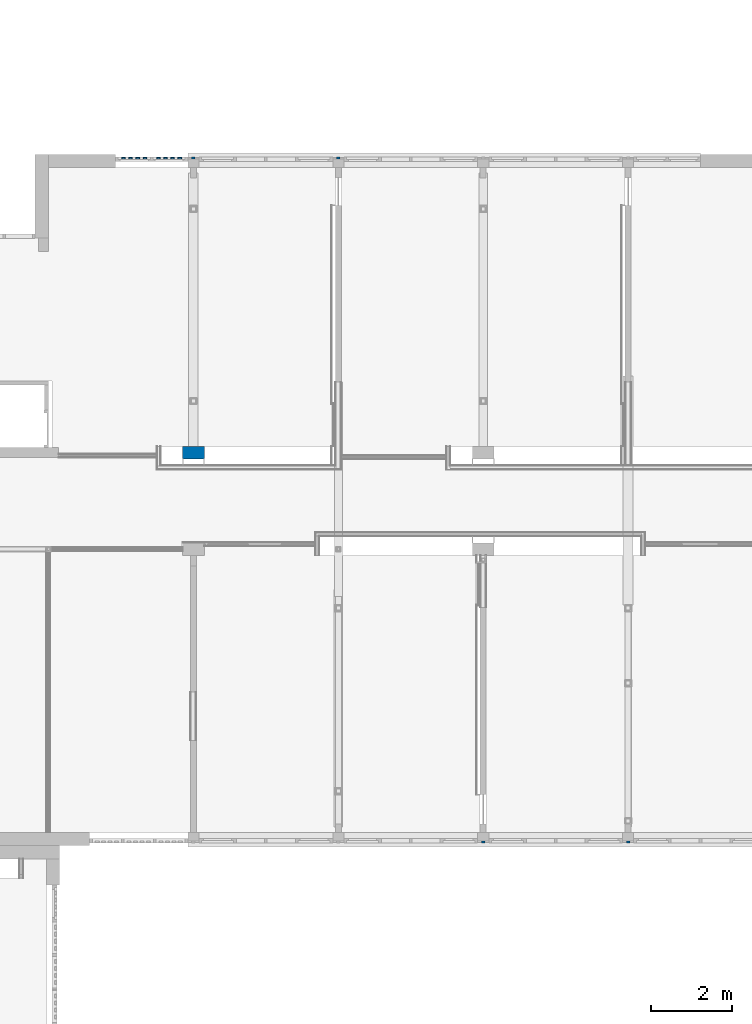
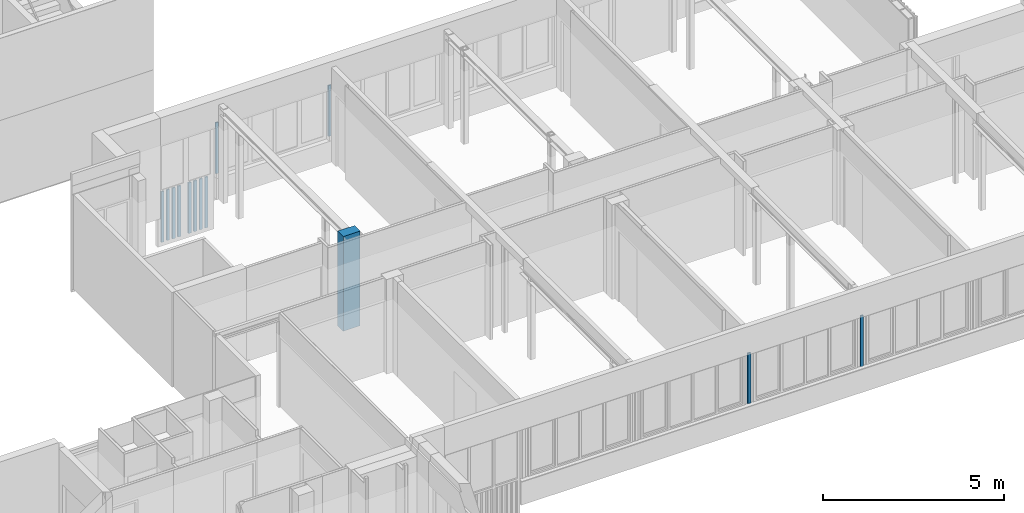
# One storey, part 15 of 99: 13 columns.
"""IFC2X3 building model written with IfcOpenShell, lengths in millimetres."""

from ifc_helpers import new_model, entity, si_unit, converted_unit, derived_unit, money_unit, direction, frame, origin_with_axes, place, context, subcontext, project, spatial, faceted_brep, material, type_object, element, save


model = new_model("IFC2X3")

# Units and contexts
model_context = context("Model", 3, precision=0.01, world=origin_with_axes(), true_north=direction((0.0, 1.0)))
body_context = subcontext(model_context, "Body", "Model", "MODEL_VIEW")
ifc_project = project(units=[si_unit("LENGTHUNIT", "METRE", prefix="MILLI"), si_unit("AREAUNIT", "SQUARE_METRE"), si_unit("VOLUMEUNIT", "CUBIC_METRE"), converted_unit("PLANEANGLEUNIT", "DEGREE", entity("IfcPlaneAngleMeasure", 0.0174532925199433), si_unit("PLANEANGLEUNIT", "RADIAN"), dimensions=[0, 0, 0, 0, 0, 0, 0]), money_unit("EUR"), converted_unit("TIMEUNIT", "Year", entity("IfcTimeMeasure", 31557600.0), si_unit("TIMEUNIT", "SECOND"), dimensions=[0, 0, 1, 0, 0, 0, 0]), si_unit("MASSUNIT", "GRAM", prefix="KILO"), si_unit("THERMODYNAMICTEMPERATUREUNIT", "DEGREE_CELSIUS"), si_unit("LUMINOUSINTENSITYUNIT", "LUMEN"), si_unit("ENERGYUNIT", "JOULE", prefix="MEGA"), derived_unit("THERMALCONDUCTANCEUNIT", [(si_unit("POWERUNIT", "WATT"), 1), (si_unit("LENGTHUNIT", "METRE"), -1), (si_unit("THERMODYNAMICTEMPERATUREUNIT", "KELVIN"), -1)]), derived_unit("SPECIFICHEATCAPACITYUNIT", [(si_unit("ENERGYUNIT", "JOULE"), 1), (si_unit("MASSUNIT", "GRAM", prefix="KILO"), -1), (si_unit("THERMODYNAMICTEMPERATUREUNIT", "KELVIN"), -1)]), derived_unit("MASSDENSITYUNIT", [(si_unit("MASSUNIT", "GRAM", prefix="KILO"), 1), (si_unit("VOLUMEUNIT", "CUBIC_METRE"), -1)])], contexts=[model_context])

# Site, building, storey
site_placement = place(None, origin_with_axes())
site = spatial("IfcSite", under=ifc_project, at=site_placement, Name="Site", CompositionType="ELEMENT")
building_placement = place(site_placement, origin_with_axes())
building = spatial("IfcBuilding", under=site, at=building_placement, Name="Naam gebouw", CompositionType="ELEMENT")
storey_placement = place(building_placement, frame((0.0, 0.0, 7650.0), z_axis=(0.0, 0.0, 1.0), x_axis=(1.0, 0.0, 0.0)))
storey = spatial("IfcBuildingStorey", under=building, at=storey_placement, Name="2e verdieping N", CompositionType="ELEMENT", Elevation=7650.0)

# Columns
ifc_material_1 = material(Name="Metaal - Staal C")
column_type_1 = type_object("IfcColumnType", Name="Metaal - Staal C 90 x 44", PredefinedType="COLUMN")
column_1_placement = place(storey_placement, frame((43199.99999999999, 10752.91242510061, 719.9999999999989), z_axis=(0.0, 0.0, 1.0), x_axis=(1.0, 0.0, 0.0)))
element("IfcColumn", 1, at=column_1_placement, inside=storey, type_object=column_type_1, material=ifc_material_1, Name="_Kolom-x", ObjectType="COLUMN", context=body_context, shape_type="Brep", body=[
    faceted_brep([(45.00000000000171, -22.00000000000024, 17.63269807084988), (45.00000000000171, -16.99999999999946, 18.51433297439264), (45.00000000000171, -16.99999999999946, 28.51433297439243), (45.00000000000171, -14.99999999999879, 28.51433297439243), (45.00000000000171, -14.99999999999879, 16.83613371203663), (45.00000000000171, -22.00000000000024, 15.60184484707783), (45.00000000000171, -22.00000000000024, 0.0), (45.00000000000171, 22.00000000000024, 0.0), (45.00000000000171, 22.00000000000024, 1720.000000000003), (45.00000000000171, -22.00000000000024, 1720.000000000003), (-45.00000000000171, -16.99999999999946, 18.51433297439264), (-45.00000000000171, -22.00000000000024, 17.63269807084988), (-45.00000000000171, -16.99999999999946, 28.51433297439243), (-45.00000000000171, -14.99999999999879, 28.51433297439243), (-45.00000000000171, -14.99999999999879, 16.83613371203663), (-45.00000000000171, -22.00000000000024, 15.60184484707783), (-45.00000000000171, -22.00000000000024, 0.0), (-45.00000000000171, 22.00000000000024, 0.0), (-45.00000000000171, 22.00000000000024, 1720.000000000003), (-45.00000000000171, -22.00000000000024, 1720.000000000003)], [[[0, 1, 2, 3, 4, 5, 6, 7, 8, 9]], [[10, 1, 0, 11]], [[12, 2, 1, 10]], [[13, 3, 2, 12]], [[14, 4, 3, 13]], [[15, 5, 4, 14]], [[6, 5, 15, 16]], [[7, 6, 16, 17]], [[18, 8, 7, 17]], [[8, 18, 19, 9]], [[19, 11, 0, 9]], [[12, 10, 11, 19, 18, 17, 16, 15, 14, 13]]]),
])
column_2_placement = place(storey_placement, frame((46799.99999999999, 10752.91242510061, 719.9999999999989), z_axis=(0.0, 0.0, 1.0), x_axis=(1.0, 0.0, 0.0)))
element("IfcColumn", 2, at=column_2_placement, inside=storey, type_object=column_type_1, material=ifc_material_1, Name="_Kolom-x", ObjectType="COLUMN", context=body_context, shape_type="Brep", body=[
    faceted_brep([(45.00000000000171, -22.00000000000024, 17.63269807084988), (45.00000000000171, -16.99999999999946, 18.51433297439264), (45.00000000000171, -16.99999999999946, 28.51433297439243), (45.00000000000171, -14.99999999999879, 28.51433297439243), (45.00000000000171, -14.99999999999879, 16.83613371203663), (45.00000000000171, -22.00000000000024, 15.60184484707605), (45.00000000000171, -22.00000000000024, 0.0), (45.00000000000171, 22.00000000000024, 0.0), (45.00000000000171, 22.00000000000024, 1720.000000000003), (45.00000000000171, -22.00000000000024, 1720.000000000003), (-45.00000000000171, -16.99999999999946, 18.51433297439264), (-45.00000000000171, -22.00000000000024, 17.63269807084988), (-45.00000000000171, -16.99999999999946, 28.51433297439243), (-45.00000000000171, -14.99999999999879, 28.51433297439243), (-45.00000000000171, -14.99999999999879, 16.83613371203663), (-45.00000000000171, -22.00000000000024, 15.60184484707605), (-45.00000000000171, -22.00000000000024, 0.0), (-45.00000000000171, 22.00000000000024, 0.0), (-45.00000000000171, 22.00000000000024, 1720.000000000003), (-45.00000000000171, -22.00000000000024, 1720.000000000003)], [[[0, 1, 2, 3, 4, 5, 6, 7, 8, 9]], [[10, 1, 0, 11]], [[12, 2, 1, 10]], [[13, 3, 2, 12]], [[14, 4, 3, 13]], [[15, 5, 4, 14]], [[6, 5, 15, 16]], [[7, 6, 16, 17]], [[18, 8, 7, 17]], [[8, 18, 19, 9]], [[19, 11, 0, 9]], [[12, 10, 11, 19, 18, 17, 16, 15, 14, 13]]]),
])
for number, where, z_axis, x_axis, name in (
    (3, (39599.99999999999, 27743.91242510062, 719.9999999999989), (0.0, 0.0, 1.0), (-1.0, 0.0, 0.0), "_Kolom-x"),
    (4, (35999.99999999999, 27743.91242510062, 719.9999999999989), (0.0, 0.0, 1.0), (-1.0, 0.0, 0.0), "_Kolom-x"),
):
    element("IfcColumn", number, at=place(storey_placement, frame(where, z_axis=z_axis, x_axis=x_axis)), inside=storey, type_object=column_type_1, material=ifc_material_1, Name=name, ObjectType="COLUMN", context=body_context, shape_type="Brep", body=[
        faceted_brep([(-45.00000000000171, -14.99999999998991, 28.51433297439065), (-45.00000000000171, -16.9999999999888, 28.51433297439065), (-45.00000000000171, -16.9999999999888, 18.51433297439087), (-45.00000000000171, -21.99999999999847, 17.63269807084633), (-45.00000000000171, -21.99999999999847, 1720.000000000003), (-45.00000000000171, 21.99999999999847, 1720.000000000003), (-45.00000000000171, 21.99999999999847, 0.0), (-45.00000000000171, -21.99999999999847, 0.0), (-45.00000000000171, -21.99999999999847, 15.60184484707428), (-45.00000000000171, -14.99999999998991, 16.83613371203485), (45.00000000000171, -16.9999999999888, 28.51433297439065), (45.00000000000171, -14.99999999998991, 28.51433297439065), (45.00000000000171, -16.9999999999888, 18.51433297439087), (45.00000000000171, -21.99999999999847, 17.63269807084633), (45.00000000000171, -21.99999999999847, 1720.000000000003), (45.00000000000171, 21.99999999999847, 1720.000000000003), (45.00000000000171, 21.99999999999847, 0.0), (45.00000000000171, -21.99999999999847, 0.0), (45.00000000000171, -21.99999999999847, 15.60184484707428), (45.00000000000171, -14.99999999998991, 16.83613371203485)], [[[0, 1, 2, 3, 4, 5, 6, 7, 8, 9]], [[10, 1, 0, 11]], [[12, 2, 1, 10]], [[12, 13, 3, 2]], [[4, 3, 13, 14]], [[15, 5, 4, 14]], [[5, 15, 16, 6]], [[16, 17, 7, 6]], [[17, 18, 8, 7]], [[19, 9, 8, 18]], [[11, 0, 9, 19]], [[11, 19, 18, 17, 16, 15, 14, 13, 12, 10]]]),
    ])
for number, where, z_axis, x_axis, name in (
    (5, (35484.58333333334, 27743.91242510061, -993.0000000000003), (0.0, 0.0, 1.0), (-1.0, 0.0, 0.0), "_Kolom-x"),
    (6, (34262.75000000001, 27743.91242510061, -993.0000000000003), (0.0, 0.0, 1.0), (-1.0, 0.0, 0.0), "_Kolom-x"),
    (7, (35662.25000000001, 27743.91242510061, -993.0000000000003), (0.0, 0.0, 1.0), (-1.0, 0.0, 0.0), "_Kolom-x"),
    (8, (35129.25000000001, 27743.91242510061, -993.0000000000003), (0.0, 0.0, 1.0), (-1.0, 0.0, 0.0), "_Kolom-x"),
    (9, (35306.91666666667, 27743.91242510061, -993.0000000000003), (0.0, 0.0, 1.0), (-1.0, 0.0, 0.0), "_Kolom-x"),
    (10, (34795.75000000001, 27743.91242510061, -993.0000000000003), (0.0, 0.0, 1.0), (-1.0, 0.0, 0.0), "_Kolom-x"),
    (11, (34618.08333333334, 27743.91242510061, -993.0000000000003), (0.0, 0.0, 1.0), (-1.0, 0.0, 0.0), "_Kolom-x"),
    (12, (34440.41666666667, 27743.91242510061, -993.0000000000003), (0.0, 0.0, 1.0), (-1.0, 0.0, 0.0), "_Kolom-x"),
):
    element("IfcColumn", number, at=place(storey_placement, frame(where, z_axis=z_axis, x_axis=x_axis)), inside=storey, type_object=column_type_1, material=ifc_material_1, Name=name, ObjectType="COLUMN", context=body_context, shape_type="Brep", body=[
        faceted_brep([(-45.00000000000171, -21.99999999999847, 1713.000000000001), (-45.00000000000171, -21.99999999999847, 0.0), (45.00000000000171, -21.99999999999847, 0.0), (45.00000000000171, -21.99999999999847, 1713.000000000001), (-45.00000000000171, 21.99999999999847, 1713.000000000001), (-45.00000000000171, 21.99999999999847, 0.0), (45.00000000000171, 21.99999999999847, 0.0), (45.00000000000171, 21.99999999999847, 1713.000000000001)], [[[0, 1, 2, 3]], [[4, 5, 1, 0]], [[2, 1, 5, 6]], [[3, 2, 6, 7]], [[4, 0, 3, 7]], [[7, 6, 5, 4]]]),
    ])
ifc_material_2 = material(Name="ALG - CONSTRUCTIEF")
column_type_2 = type_object("IfcColumnType", Name="ALG - CONSTRUCTIEF 540 x 310", PredefinedType="COLUMN")
column_3_placement = place(storey_placement, frame((36000.0, 20425.91242510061, -99.99999999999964), z_axis=(0.0, 0.0, 1.0), x_axis=(1.0, 0.0, 0.0)))
element("IfcColumn", 13, at=column_3_placement, inside=storey, type_object=column_type_2, material=ifc_material_2, Name="_Kolom-x", ObjectType="COLUMN", context=body_context, shape_type="Brep", body=[
    faceted_brep([(270.0000000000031, -155.0000000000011, 3299.999999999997), (270.0000000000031, -155.0000000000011, 99.99999999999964), (270.0000000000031, 155.0000000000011, 99.99999999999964), (270.0000000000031, 155.0000000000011, 3299.999999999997), (-270.0000000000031, -155.0000000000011, 3299.999999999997), (-270.0000000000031, -155.0000000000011, 99.99999999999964), (-270.0000000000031, 155.0000000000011, 99.99999999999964), (-270.0000000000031, 155.0000000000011, 3299.999999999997)], [[[0, 1, 2, 3]], [[4, 5, 1, 0]], [[5, 6, 2, 1]], [[3, 2, 6, 7]], [[4, 0, 3, 7]], [[7, 6, 5, 4]]]),
])

save(model, "model.ifc")
